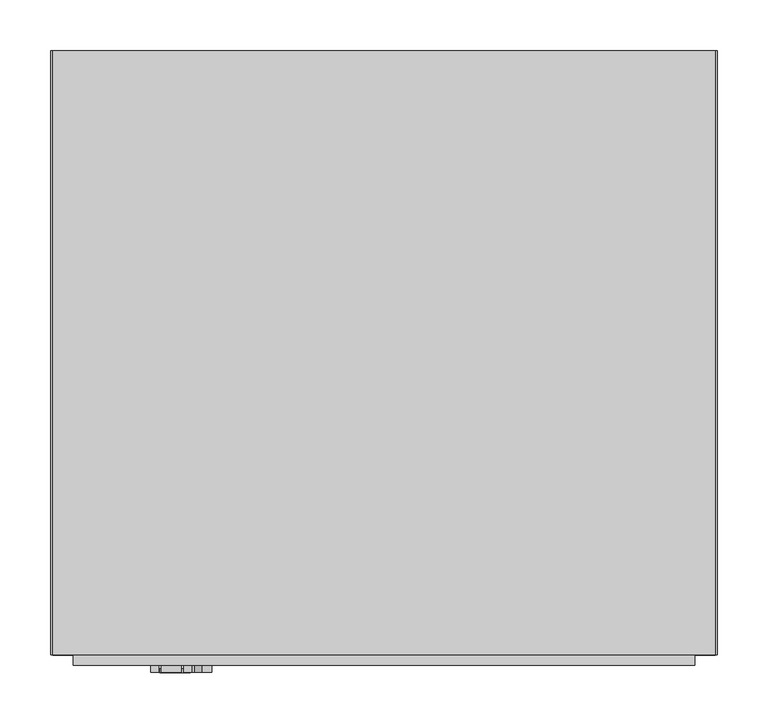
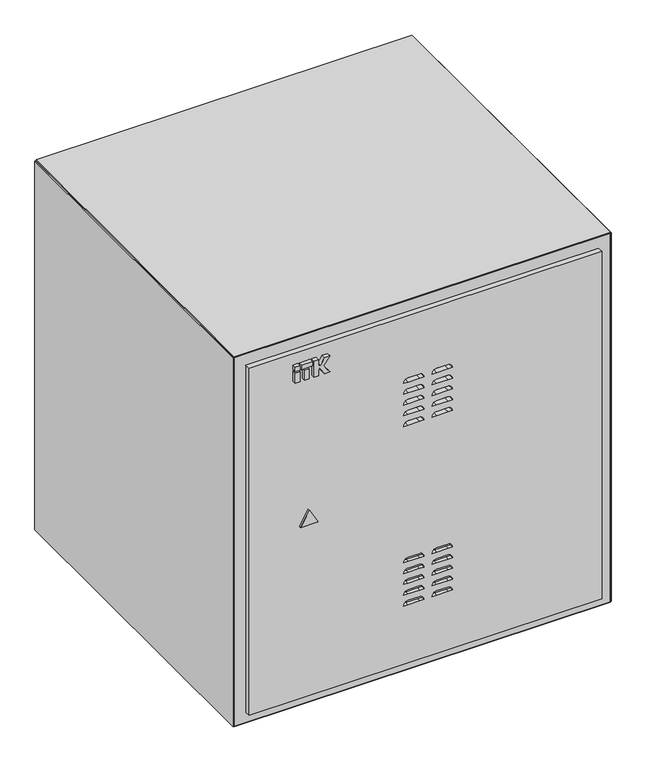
"""IFC4 building model written with IfcOpenShell, lengths in millimetres: proxy geometry, Шкафы ITK серия O_навесной : LO35-09U66-M55."""

from ifc_helpers import new_model, si_unit, frame, origin, origin_with_axes, place, context, project, spatial, polyline, circle_curve, outline, extrude, source, transform, mapped, element, save
from ifc_brep_helpers import plane_surface, revolved_surface, advanced_brep


def electrical_fixtures_a33d25a8(model_context):
    return source(origin(), model_context, "Body", "SolidModel", [
        extrude(outline(polyline([(-220.9746193, -313.5), (-229.197592, -313.5), (-229.197592, -306.5), (-220.9746193, -306.5), (-220.9746193, -313.5)])), frame((0.0, 0.0, 604.0), z_axis=(0.0, 0.0, 1.0), x_axis=(1.0, 0.0, 0.0)), (0.0, 0.0, 1.0), 18.8087618),
        extrude(outline(polyline([(-204.9605777, -313.5), (-212.7053315, -313.5), (-212.7053315, -306.5), (-204.9605777, -306.5), (-204.9605777, -313.5)])), frame((0.0, 0.0, 604.0), z_axis=(0.0, 0.0, 1.0), x_axis=(1.0, 0.0, 0.0)), (0.0, 0.0, 1.0), 18.8087618),
        extrude(outline(polyline([(-220.9746193, -313.5), (-229.197592, -313.5), (-229.197592, -306.5), (-220.9746193, -306.5), (-220.9746193, -313.5)])), frame((0.0, 0.0, 625.4305892), z_axis=(0.0, 0.0, 1.0), x_axis=(1.0, 0.0, 0.0)), (0.0, 0.0, 1.0), 7.9794747),
        extrude(outline(polyline([(604.0, -196.5184175), (604.0, -188.7669278), (615.0271455, -188.7669278), (615.0271455, -185.8031229), (604.0, -178.6420108), (604.0, -169.197592), (618.7278745, -179.8980192), (633.410064, -169.197592), (633.410064, -178.6420108), (622.3829184, -185.8031229), (622.3829184, -188.7669278), (633.410064, -188.7669278), (633.410064, -196.5184175), (604.0, -196.5184175)])), frame((0.0, -313.5, 0.0), z_axis=(0.0, 1.0, 0.0), x_axis=(0.0, 0.0, 1.0)), (0.0, 0.0, 1.0), 7.0),
        extrude(outline(polyline([(-199.0851324, -313.5), (-218.5807768, -313.5), (-218.5807768, -306.5), (-199.0851324, -306.5), (-199.0851324, -313.5)])), frame((0.0, 0.0, 625.4305892), z_axis=(0.0, 0.0, 1.0), x_axis=(1.0, 0.0, 0.0)), (0.0, 0.0, 1.0), 7.9794747),
        extrude(outline(polyline([(338.0, -190.0), (363.9807621, -205.0), (338.0, -220.0), (338.0, -190.0)])), frame((0.0, -313.8761985, 0.0), z_axis=(0.0, 1.0, 0.0), x_axis=(0.0, 0.0, 1.0)), (0.0, 0.0, 1.0), 3.8761985),
        extrude(outline(polyline([(325.0, -294.5), (325.0, -296.5), (-325.0, -296.5), (-325.0, -294.5), (325.0, -294.5)])), frame((0.0, 0.0, 1.0), z_axis=(0.0, 0.0, 1.0), x_axis=(1.0, 0.0, 0.0)), (0.0, 0.0, 1.0), 673.0),
        advanced_brep(
        [(305.0, -306.5, 654.0), (305.0, -296.5, 654.0), (-305.0, -296.5, 654.0), (-305.0, -306.5, 654.0), (305.0, -306.5, 20.0), (-305.0, -306.5, 20.0), (-305.0, -296.5, 20.0), (305.0, -296.5, 20.0), (-10.2651389, -306.5, 454.0), (-29.9451403, -306.5, 454.0), (-37.5671705, -306.5, 454.0), (-29.945139, -306.5, 461.6220297), (-10.2651389, -306.5, 461.6220297), (-2.6431076, -306.5, 454.0), (19.254861, -306.5, 461.6220297), (38.9348608, -306.5, 461.6220297), (46.5568923, -306.5, 454.0), (38.93486, -306.5, 454.0), (19.2548605, -306.5, 454.0), (11.6328295, -306.5, 454.0), (19.2548609, -306.5, 540.3420292), (38.9348609, -306.5, 540.3420292), (46.5568921, -306.5, 532.719998), (38.93486, -306.5, 532.719998), (19.2548605, -306.5, 532.719998), (11.6328297, -306.5, 532.719998), (-29.9451391, -306.5, 540.3420287), (-10.2651391, -306.5, 540.3420287), (-2.6431079, -306.5, 532.7199976), (-10.2651391, -306.5, 532.7199976), (-29.9451403, -306.5, 532.7199976), (-37.5671703, -306.5, 532.7199976), (-2.6431074, -306.5, 513.0400027), (-10.2651389, -306.5, 513.0400027), (-29.9451403, -306.5, 513.0400027), (-37.5671708, -306.5, 513.0400027), (-29.9451389, -306.5, 520.6620307), (-10.2651392, -306.5, 520.6620307), (-10.2651389, -306.5, 493.3599899), (-29.9451403, -306.5, 493.3599899), (-37.5644189, -306.5, 493.3599899), (-29.9414669, -306.5, 500.9820295), (-10.2614689, -306.5, 500.9820295), (-2.6403525, -306.5, 493.3599899), (-10.2651389, -306.5, 473.6798081), (-29.9451403, -306.5, 473.6798081), (-37.5657664, -306.5, 473.6798081), (-29.942705, -306.5, 481.302777), (-10.2675726, -306.5, 481.302777), (-2.644513, -306.5, 473.6798081), (38.93486, -306.5, 473.679901), (19.2548605, -306.5, 473.679901), (11.6343857, -306.5, 473.679901), (19.2572189, -306.5, 481.3024052), (38.9285415, -306.5, 481.3024052), (46.5570341, -306.5, 473.679901), (38.93486, -306.5, 493.3598389), (19.2548605, -306.5, 493.3598389), (11.6353341, -306.5, 493.3598389), (19.2586566, -306.5, 500.9826332), (38.9246889, -306.5, 500.9826332), (46.5571211, -306.5, 493.3598389), (38.93486, -306.5, 513.0400027), (19.2548605, -306.5, 513.0400027), (11.6328292, -306.5, 513.0400027), (19.2548611, -306.5, 520.6620307), (38.9348606, -306.5, 520.6620307), (46.5568926, -306.5, 513.0400027), (-10.2651389, -306.5, 126.2175069), (-29.9451403, -306.5, 126.2175069), (-37.5671705, -306.5, 126.2175069), (-29.945139, -306.5, 133.8395366), (-10.2651389, -306.5, 133.8395366), (-2.6431076, -306.5, 126.2175069), (19.254861, -306.5, 133.8395366), (38.9348608, -306.5, 133.8395366), (46.5568923, -306.5, 126.2175069), (38.93486, -306.5, 126.2175069), (19.2548605, -306.5, 126.2175069), (11.6328295, -306.5, 126.2175069), (19.2548609, -306.5, 212.559536), (38.9348609, -306.5, 212.559536), (46.5568921, -306.5, 204.9375049), (38.93486, -306.5, 204.9375049), (19.2548605, -306.5, 204.9375049), (11.6328297, -306.5, 204.9375049), (-29.9451391, -306.5, 212.5595356), (-10.2651391, -306.5, 212.5595356), (-2.6431079, -306.5, 204.9375046), (-10.2651391, -306.5, 204.9375046), (-29.9451403, -306.5, 204.9375046), (-37.5671703, -306.5, 204.9375046), (-2.6431074, -306.5, 185.2575096), (-10.2651389, -306.5, 185.2575096), (-29.9451403, -306.5, 185.2575096), (-37.5671708, -306.5, 185.2575096), (-29.9451389, -306.5, 192.8795376), (-10.2651392, -306.5, 192.8795376), (-10.2651389, -306.5, 165.5774968), (-29.9451403, -306.5, 165.5774968), (-37.5644189, -306.5, 165.5774968), (-29.9414669, -306.5, 173.1995364), (-10.2614689, -306.5, 173.1995364), (-2.6403525, -306.5, 165.5774968), (-10.2651389, -306.5, 145.897315), (-29.9451403, -306.5, 145.897315), (-37.5657664, -306.5, 145.897315), (-29.942705, -306.5, 153.5202839), (-10.2675726, -306.5, 153.5202839), (-2.644513, -306.5, 145.897315), (38.93486, -306.5, 145.8974079), (19.2548605, -306.5, 145.8974079), (11.6343857, -306.5, 145.8974079), (19.2572189, -306.5, 153.519912), (38.9285415, -306.5, 153.519912), (46.5570341, -306.5, 145.8974079), (38.93486, -306.5, 165.5773458), (19.2548605, -306.5, 165.5773458), (11.6353341, -306.5, 165.5773458), (19.2586566, -306.5, 173.2001401), (38.9246889, -306.5, 173.2001401), (46.5571211, -306.5, 165.5773458), (38.93486, -306.5, 185.2575096), (19.2548605, -306.5, 185.2575096), (11.6328292, -306.5, 185.2575096), (19.2548611, -306.5, 192.8795376), (38.9348606, -306.5, 192.8795376), (46.5568926, -306.5, 185.2575096), (-29.9451403, -296.5, 454.0), (-10.2651389, -296.5, 454.0), (-2.6431076, -296.5, 454.0), (-10.2651389, -296.5, 461.6220297), (-29.945139, -296.5, 461.6220297), (-37.5671705, -296.5, 454.0), (38.9348608, -296.5, 461.6220297), (19.254861, -296.5, 461.6220297), (11.6328295, -296.5, 454.0), (19.2548605, -296.5, 454.0), (38.93486, -296.5, 454.0), (46.5568923, -296.5, 454.0), (38.9348609, -296.5, 540.3420292), (19.2548609, -296.5, 540.3420292), (11.6328297, -296.5, 532.719998), (19.2548605, -296.5, 532.719998), (38.93486, -296.5, 532.719998), (46.5568921, -296.5, 532.719998), (-10.2651391, -296.5, 540.3420287), (-29.9451391, -296.5, 540.3420287), (-37.5671703, -296.5, 532.7199976), (-29.9451403, -296.5, 532.7199976), (-10.2651391, -296.5, 532.7199976), (-2.6431079, -296.5, 532.7199976), (-10.2651389, -296.5, 513.0400027), (-2.6431074, -296.5, 513.0400027), (-10.2651392, -296.5, 520.6620307), (-29.9451389, -296.5, 520.6620307), (-37.5671708, -296.5, 513.0400027), (-29.9451403, -296.5, 513.0400027), (-29.9451403, -296.5, 493.3599899), (-10.2651389, -296.5, 493.3599899), (-2.6403525, -296.5, 493.3599899), (-10.2614689, -296.5, 500.9820295), (-29.9414669, -296.5, 500.9820295), (-37.5644189, -296.5, 493.3599899), (-29.9451403, -296.5, 473.6798081), (-10.2651389, -296.5, 473.6798081), (-2.644513, -296.5, 473.6798081), (-10.2675726, -296.5, 481.302777), (-29.942705, -296.5, 481.302777), (-37.5657664, -296.5, 473.6798081), (19.2548605, -296.5, 473.679901), (38.93486, -296.5, 473.679901), (46.5570341, -296.5, 473.679901), (38.9285415, -296.5, 481.3024052), (19.2572189, -296.5, 481.3024052), (11.6343857, -296.5, 473.679901), (19.2548605, -296.5, 493.3598389), (38.93486, -296.5, 493.3598389), (46.5571211, -296.5, 493.3598389), (38.9246889, -296.5, 500.9826332), (19.2586566, -296.5, 500.9826332), (11.6353341, -296.5, 493.3598389), (19.2548605, -296.5, 513.0400027), (38.93486, -296.5, 513.0400027), (46.5568926, -296.5, 513.0400027), (38.9348606, -296.5, 520.6620307), (19.2548611, -296.5, 520.6620307), (11.6328292, -296.5, 513.0400027), (-29.9451403, -300.0, 126.2175069), (-10.2651389, -300.0, 126.2175069), (-2.6431076, -300.0, 126.2175069), (-10.2651389, -300.0, 133.8395366), (-29.945139, -300.0, 133.8395366), (-37.5671705, -300.0, 126.2175069), (38.9348608, -300.0, 133.8395366), (19.254861, -300.0, 133.8395366), (11.6328295, -300.0, 126.2175069), (19.2548605, -300.0, 126.2175069), (38.93486, -300.0, 126.2175069), (46.5568923, -300.0, 126.2175069), (38.9348609, -300.0, 212.559536), (19.2548609, -300.0, 212.559536), (11.6328297, -300.0, 204.9375049), (19.2548605, -300.0, 204.9375049), (38.93486, -300.0, 204.9375049), (46.5568921, -300.0, 204.9375049), (-10.2651391, -300.0, 212.5595356), (-29.9451391, -300.0, 212.5595356), (-37.5671703, -300.0, 204.9375046), (-29.9451403, -300.0, 204.9375046), (-10.2651391, -300.0, 204.9375046), (-2.6431079, -300.0, 204.9375046), (-10.2651389, -300.0, 185.2575096), (-2.6431074, -300.0, 185.2575096), (-10.2651392, -300.0, 192.8795376), (-29.9451389, -300.0, 192.8795376), (-37.5671708, -300.0, 185.2575096), (-29.9451403, -300.0, 185.2575096), (-29.9451403, -300.0, 165.5774968), (-10.2651389, -300.0, 165.5774968), (-2.6403525, -300.0, 165.5774968), (-10.2614689, -300.0, 173.1995364), (-29.9414669, -300.0, 173.1995364), (-37.5644189, -300.0, 165.5774968), (-29.9451403, -300.0, 145.897315), (-10.2651389, -300.0, 145.897315), (-2.644513, -300.0, 145.897315), (-10.2675726, -300.0, 153.5202839), (-29.942705, -300.0, 153.5202839), (-37.5657664, -300.0, 145.897315), (19.2548605, -300.0, 145.8974079), (38.93486, -300.0, 145.8974079), (46.5570341, -300.0, 145.8974079), (38.9285415, -300.0, 153.519912), (19.2572189, -300.0, 153.519912), (11.6343857, -300.0, 145.8974079), (19.2548605, -300.0, 165.5773458), (38.93486, -300.0, 165.5773458), (46.5571211, -300.0, 165.5773458), (38.9246889, -300.0, 173.2001401), (19.2586566, -300.0, 173.2001401), (11.6353341, -300.0, 165.5773458), (19.2548605, -300.0, 185.2575096), (38.93486, -300.0, 185.2575096), (46.5568926, -300.0, 185.2575096), (38.9348606, -300.0, 192.8795376), (19.2548611, -300.0, 192.8795376), (11.6328292, -300.0, 185.2575096)],
        [
            (0, 1),
            (1, 2),
            (2, 3),
            (3, 0),
            (4, 5),
            (5, 6),
            (6, 7),
            (7, 4),
            (3, 5),
            (4, 0),
            (8, 9),
            (9, 10),
            (10, 11, circle_curve(frame((-29.945139, -306.5, 453.9999983), z_axis=(0.0, 1.0, 0.0), x_axis=(1.0, 0.0, 0.0)), 7.6220315)),
            (11, 12),
            (12, 13, circle_curve(frame((-10.2651389, -306.5, 453.9999985), z_axis=(0.0, 1.0, 0.0), x_axis=(1.0, 0.0, 0.0)), 7.6220312)),
            (13, 8),
            (14, 15),
            (15, 16, circle_curve(frame((38.9348608, -306.5, 453.9999982), z_axis=(0.0, 1.0, 0.0), x_axis=(1.0, 0.0, 0.0)), 7.6220315)),
            (16, 17),
            (17, 18),
            (18, 19),
            (19, 14, circle_curve(frame((19.254861, -306.5, 453.9999982), z_axis=(0.0, 1.0, 0.0), x_axis=(1.0, 0.0, 0.0)), 7.6220315)),
            (20, 21),
            (21, 22, circle_curve(frame((38.9348609, -306.5, 532.719998), z_axis=(0.0, 1.0, 0.0), x_axis=(1.0, 0.0, 0.0)), 7.6220312)),
            (22, 23),
            (23, 24),
            (24, 25),
            (25, 20, circle_curve(frame((19.2548609, -306.5, 532.719998), z_axis=(0.0, 1.0, 0.0), x_axis=(1.0, 0.0, 0.0)), 7.6220312)),
            (26, 27),
            (27, 28, circle_curve(frame((-10.2651391, -306.5, 532.7199976), z_axis=(0.0, 1.0, 0.0), x_axis=(1.0, 0.0, 0.0)), 7.6220312)),
            (28, 29),
            (29, 30),
            (30, 31),
            (31, 26, circle_curve(frame((-29.9451391, -306.5, 532.7199976), z_axis=(0.0, 1.0, 0.0), x_axis=(1.0, 0.0, 0.0)), 7.6220312)),
            (32, 33),
            (33, 34),
            (34, 35),
            (35, 36, circle_curve(frame((-29.9451389, -306.5, 513.0399988), z_axis=(0.0, 1.0, 0.0), x_axis=(1.0, 0.0, 0.0)), 7.6220319)),
            (36, 37),
            (37, 32, circle_curve(frame((-10.2651392, -306.5, 513.0399988), z_axis=(0.0, 1.0, 0.0), x_axis=(1.0, 0.0, 0.0)), 7.6220319)),
            (38, 39),
            (39, 40),
            (40, 41, circle_curve(frame((-29.9414669, -306.5, 493.3590775), z_axis=(0.0, 1.0, 0.0), x_axis=(1.0, 0.0, 0.0)), 7.622952)),
            (41, 42),
            (42, 43, circle_curve(frame((-10.2614689, -306.5, 493.360913), z_axis=(0.0, 1.0, 0.0), x_axis=(1.0, 0.0, 0.0)), 7.6211164)),
            (43, 38),
            (44, 45),
            (45, 46),
            (46, 47, circle_curve(frame((-29.942705, -306.5, 473.6797156), z_axis=(0.0, 1.0, 0.0), x_axis=(1.0, 0.0, 0.0)), 7.6230614)),
            (47, 48),
            (48, 49, circle_curve(frame((-10.2675726, -306.5, 473.6797174), z_axis=(0.0, 1.0, 0.0), x_axis=(1.0, 0.0, 0.0)), 7.6230597)),
            (49, 44),
            (50, 51),
            (51, 52),
            (52, 53, circle_curve(frame((19.2572189, -306.5, 473.6795719), z_axis=(0.0, 1.0, 0.0), x_axis=(1.0, 0.0, 0.0)), 7.6228332)),
            (53, 54),
            (54, 55, circle_curve(frame((38.9347662, -306.5, 473.6801399), z_axis=(0.0, 1.0, 0.0), x_axis=(1.0, 0.0, 0.0)), 7.6222678)),
            (55, 50),
            (56, 57),
            (57, 58),
            (58, 59, circle_curve(frame((19.2586566, -306.5, 493.3593107), z_axis=(0.0, 1.0, 0.0), x_axis=(1.0, 0.0, 0.0)), 7.6233225)),
            (59, 60),
            (60, 61, circle_curve(frame((38.9347082, -306.5, 493.3602269), z_axis=(0.0, 1.0, 0.0), x_axis=(1.0, 0.0, 0.0)), 7.6224129)),
            (61, 56),
            (62, 63),
            (63, 64),
            (64, 65, circle_curve(frame((19.2548611, -306.5, 513.0399987), z_axis=(0.0, 1.0, 0.0), x_axis=(1.0, 0.0, 0.0)), 7.6220319)),
            (65, 66),
            (66, 67, circle_curve(frame((38.9348606, -306.5, 513.0399987), z_axis=(0.0, 1.0, 0.0), x_axis=(1.0, 0.0, 0.0)), 7.6220319)),
            (67, 62),
            (68, 69),
            (69, 70),
            (70, 71, circle_curve(frame((-29.945139, -306.5, 126.2175051), z_axis=(0.0, 1.0, 0.0), x_axis=(1.0, 0.0, 0.0)), 7.6220315)),
            (71, 72),
            (72, 73, circle_curve(frame((-10.2651389, -306.5, 126.2175054), z_axis=(0.0, 1.0, 0.0), x_axis=(1.0, 0.0, 0.0)), 7.6220312)),
            (73, 68),
            (74, 75),
            (75, 76, circle_curve(frame((38.9348608, -306.5, 126.2175051), z_axis=(0.0, 1.0, 0.0), x_axis=(1.0, 0.0, 0.0)), 7.6220315)),
            (76, 77),
            (77, 78),
            (78, 79),
            (79, 74, circle_curve(frame((19.254861, -306.5, 126.2175051), z_axis=(0.0, 1.0, 0.0), x_axis=(1.0, 0.0, 0.0)), 7.6220315)),
            (80, 81),
            (81, 82, circle_curve(frame((38.9348609, -306.5, 204.9375049), z_axis=(0.0, 1.0, 0.0), x_axis=(1.0, 0.0, 0.0)), 7.6220312)),
            (82, 83),
            (83, 84),
            (84, 85),
            (85, 80, circle_curve(frame((19.2548609, -306.5, 204.9375049), z_axis=(0.0, 1.0, 0.0), x_axis=(1.0, 0.0, 0.0)), 7.6220312)),
            (86, 87),
            (87, 88, circle_curve(frame((-10.2651391, -306.5, 204.9375044), z_axis=(0.0, 1.0, 0.0), x_axis=(1.0, 0.0, 0.0)), 7.6220312)),
            (88, 89),
            (89, 90),
            (90, 91),
            (91, 86, circle_curve(frame((-29.9451391, -306.5, 204.9375044), z_axis=(0.0, 1.0, 0.0), x_axis=(1.0, 0.0, 0.0)), 7.6220312)),
            (92, 93),
            (93, 94),
            (94, 95),
            (95, 96, circle_curve(frame((-29.9451389, -306.5, 185.2575057), z_axis=(0.0, 1.0, 0.0), x_axis=(1.0, 0.0, 0.0)), 7.6220319)),
            (96, 97),
            (97, 92, circle_curve(frame((-10.2651392, -306.5, 185.2575057), z_axis=(0.0, 1.0, 0.0), x_axis=(1.0, 0.0, 0.0)), 7.6220319)),
            (98, 99),
            (99, 100),
            (100, 101, circle_curve(frame((-29.9414669, -306.5, 165.5765843), z_axis=(0.0, 1.0, 0.0), x_axis=(1.0, 0.0, 0.0)), 7.622952)),
            (101, 102),
            (102, 103, circle_curve(frame((-10.2614689, -306.5, 165.5784199), z_axis=(0.0, 1.0, 0.0), x_axis=(1.0, 0.0, 0.0)), 7.6211164)),
            (103, 98),
            (104, 105),
            (105, 106),
            (106, 107, circle_curve(frame((-29.942705, -306.5, 145.8972225), z_axis=(0.0, 1.0, 0.0), x_axis=(1.0, 0.0, 0.0)), 7.6230614)),
            (107, 108),
            (108, 109, circle_curve(frame((-10.2675726, -306.5, 145.8972242), z_axis=(0.0, 1.0, 0.0), x_axis=(1.0, 0.0, 0.0)), 7.6230597)),
            (109, 104),
            (110, 111),
            (111, 112),
            (112, 113, circle_curve(frame((19.2572189, -306.5, 145.8970788), z_axis=(0.0, 1.0, 0.0), x_axis=(1.0, 0.0, 0.0)), 7.6228332)),
            (113, 114),
            (114, 115, circle_curve(frame((38.9347662, -306.5, 145.8976467), z_axis=(0.0, 1.0, 0.0), x_axis=(1.0, 0.0, 0.0)), 7.6222678)),
            (115, 110),
            (116, 117),
            (117, 118),
            (118, 119, circle_curve(frame((19.2586566, -306.5, 165.5768176), z_axis=(0.0, 1.0, 0.0), x_axis=(1.0, 0.0, 0.0)), 7.6233225)),
            (119, 120),
            (120, 121, circle_curve(frame((38.9347082, -306.5, 165.5777338), z_axis=(0.0, 1.0, 0.0), x_axis=(1.0, 0.0, 0.0)), 7.6224129)),
            (121, 116),
            (122, 123),
            (123, 124),
            (124, 125, circle_curve(frame((19.2548611, -306.5, 185.2575056), z_axis=(0.0, 1.0, 0.0), x_axis=(1.0, 0.0, 0.0)), 7.6220319)),
            (125, 126),
            (126, 127, circle_curve(frame((38.9348606, -306.5, 185.2575056), z_axis=(0.0, 1.0, 0.0), x_axis=(1.0, 0.0, 0.0)), 7.6220319)),
            (127, 122),
            (2, 6),
            (7, 1),
            (128, 129),
            (129, 130),
            (130, 131, circle_curve(frame((-10.2651389, -296.5, 453.9999985), z_axis=(0.0, -1.0, 0.0), x_axis=(1.0, 0.0, 0.0)), 7.6220312)),
            (131, 132),
            (132, 133, circle_curve(frame((-29.945139, -296.5, 453.9999983), z_axis=(0.0, -1.0, 0.0), x_axis=(1.0, 0.0, 0.0)), 7.6220315)),
            (133, 128),
            (134, 135),
            (135, 136, circle_curve(frame((19.254861, -296.5, 453.9999982), z_axis=(0.0, -1.0, 0.0), x_axis=(1.0, 0.0, 0.0)), 7.6220315)),
            (136, 137),
            (137, 138),
            (138, 139),
            (139, 134, circle_curve(frame((38.9348608, -296.5, 453.9999982), z_axis=(0.0, -1.0, 0.0), x_axis=(1.0, 0.0, 0.0)), 7.6220315)),
            (140, 141),
            (141, 142, circle_curve(frame((19.2548609, -296.5, 532.719998), z_axis=(0.0, -1.0, 0.0), x_axis=(1.0, 0.0, 0.0)), 7.6220312)),
            (142, 143),
            (143, 144),
            (144, 145),
            (145, 140, circle_curve(frame((38.9348609, -296.5, 532.719998), z_axis=(0.0, -1.0, 0.0), x_axis=(1.0, 0.0, 0.0)), 7.6220312)),
            (146, 147),
            (147, 148, circle_curve(frame((-29.9451391, -296.5, 532.7199976), z_axis=(0.0, -1.0, 0.0), x_axis=(1.0, 0.0, 0.0)), 7.6220312)),
            (148, 149),
            (149, 150),
            (150, 151),
            (151, 146, circle_curve(frame((-10.2651391, -296.5, 532.7199976), z_axis=(0.0, -1.0, 0.0), x_axis=(1.0, 0.0, 0.0)), 7.6220312)),
            (152, 153),
            (153, 154, circle_curve(frame((-10.2651392, -296.5, 513.0399988), z_axis=(0.0, -1.0, 0.0), x_axis=(1.0, 0.0, 0.0)), 7.6220319)),
            (154, 155),
            (155, 156, circle_curve(frame((-29.9451389, -296.5, 513.0399988), z_axis=(0.0, -1.0, 0.0), x_axis=(1.0, 0.0, 0.0)), 7.6220319)),
            (156, 157),
            (157, 152),
            (158, 159),
            (159, 160),
            (160, 161, circle_curve(frame((-10.2614689, -296.5, 493.360913), z_axis=(0.0, -1.0, 0.0), x_axis=(1.0, 0.0, 0.0)), 7.6211164)),
            (161, 162),
            (162, 163, circle_curve(frame((-29.9414669, -296.5, 493.3590775), z_axis=(0.0, -1.0, 0.0), x_axis=(1.0, 0.0, 0.0)), 7.622952)),
            (163, 158),
            (164, 165),
            (165, 166),
            (166, 167, circle_curve(frame((-10.2675726, -296.5, 473.6797174), z_axis=(0.0, -1.0, 0.0), x_axis=(1.0, 0.0, 0.0)), 7.6230597)),
            (167, 168),
            (168, 169, circle_curve(frame((-29.942705, -296.5, 473.6797156), z_axis=(0.0, -1.0, 0.0), x_axis=(1.0, 0.0, 0.0)), 7.6230614)),
            (169, 164),
            (170, 171),
            (171, 172),
            (172, 173, circle_curve(frame((38.9347662, -296.5, 473.6801399), z_axis=(0.0, -1.0, 0.0), x_axis=(1.0, 0.0, 0.0)), 7.6222678)),
            (173, 174),
            (174, 175, circle_curve(frame((19.2572189, -296.5, 473.6795719), z_axis=(0.0, -1.0, 0.0), x_axis=(1.0, 0.0, 0.0)), 7.6228332)),
            (175, 170),
            (176, 177),
            (177, 178),
            (178, 179, circle_curve(frame((38.9347082, -296.5, 493.3602269), z_axis=(0.0, -1.0, 0.0), x_axis=(1.0, 0.0, 0.0)), 7.6224129)),
            (179, 180),
            (180, 181, circle_curve(frame((19.2586566, -296.5, 493.3593107), z_axis=(0.0, -1.0, 0.0), x_axis=(1.0, 0.0, 0.0)), 7.6233225)),
            (181, 176),
            (182, 183),
            (183, 184),
            (184, 185, circle_curve(frame((38.9348606, -296.5, 513.0399987), z_axis=(0.0, -1.0, 0.0), x_axis=(1.0, 0.0, 0.0)), 7.6220319)),
            (185, 186),
            (186, 187, circle_curve(frame((19.2548611, -296.5, 513.0399987), z_axis=(0.0, -1.0, 0.0), x_axis=(1.0, 0.0, 0.0)), 7.6220319)),
            (187, 182),
            (8, 129),
            (128, 9),
            (13, 130),
            (12, 131),
            (11, 132),
            (10, 133),
            (14, 135),
            (134, 15),
            (19, 136),
            (18, 137),
            (17, 138),
            (16, 139),
            (20, 141),
            (140, 21),
            (25, 142),
            (24, 143),
            (23, 144),
            (22, 145),
            (26, 147),
            (146, 27),
            (31, 148),
            (30, 149),
            (29, 150),
            (28, 151),
            (32, 153),
            (152, 33),
            (37, 154),
            (36, 155),
            (35, 156),
            (34, 157),
            (38, 159),
            (158, 39),
            (43, 160),
            (42, 161),
            (41, 162),
            (40, 163),
            (44, 165),
            (164, 45),
            (49, 166),
            (48, 167),
            (47, 168),
            (46, 169),
            (50, 171),
            (170, 51),
            (55, 172),
            (54, 173),
            (53, 174),
            (52, 175),
            (56, 177),
            (176, 57),
            (61, 178),
            (60, 179),
            (59, 180),
            (58, 181),
            (62, 183),
            (182, 63),
            (67, 184),
            (66, 185),
            (65, 186),
            (64, 187),
            (188, 189),
            (189, 190),
            (190, 191, circle_curve(frame((-10.2651389, -300.0, 126.2175054), z_axis=(0.0, -1.0, 0.0), x_axis=(1.0, 0.0, 0.0)), 7.6220312)),
            (191, 192),
            (192, 193, circle_curve(frame((-29.945139, -300.0, 126.2175051), z_axis=(0.0, -1.0, 0.0), x_axis=(1.0, 0.0, 0.0)), 7.6220315)),
            (193, 188),
            (194, 195),
            (195, 196, circle_curve(frame((19.254861, -300.0, 126.2175051), z_axis=(0.0, -1.0, 0.0), x_axis=(1.0, 0.0, 0.0)), 7.6220315)),
            (196, 197),
            (197, 198),
            (198, 199),
            (199, 194, circle_curve(frame((38.9348608, -300.0, 126.2175051), z_axis=(0.0, -1.0, 0.0), x_axis=(1.0, 0.0, 0.0)), 7.6220315)),
            (200, 201),
            (201, 202, circle_curve(frame((19.2548609, -300.0, 204.9375049), z_axis=(0.0, -1.0, 0.0), x_axis=(1.0, 0.0, 0.0)), 7.6220312)),
            (202, 203),
            (203, 204),
            (204, 205),
            (205, 200, circle_curve(frame((38.9348609, -300.0, 204.9375049), z_axis=(0.0, -1.0, 0.0), x_axis=(1.0, 0.0, 0.0)), 7.6220312)),
            (206, 207),
            (207, 208, circle_curve(frame((-29.9451391, -300.0, 204.9375044), z_axis=(0.0, -1.0, 0.0), x_axis=(1.0, 0.0, 0.0)), 7.6220312)),
            (208, 209),
            (209, 210),
            (210, 211),
            (211, 206, circle_curve(frame((-10.2651391, -300.0, 204.9375044), z_axis=(0.0, -1.0, 0.0), x_axis=(1.0, 0.0, 0.0)), 7.6220312)),
            (212, 213),
            (213, 214, circle_curve(frame((-10.2651392, -300.0, 185.2575057), z_axis=(0.0, -1.0, 0.0), x_axis=(1.0, 0.0, 0.0)), 7.6220319)),
            (214, 215),
            (215, 216, circle_curve(frame((-29.9451389, -300.0, 185.2575057), z_axis=(0.0, -1.0, 0.0), x_axis=(1.0, 0.0, 0.0)), 7.6220319)),
            (216, 217),
            (217, 212),
            (218, 219),
            (219, 220),
            (220, 221, circle_curve(frame((-10.2614689, -300.0, 165.5784199), z_axis=(0.0, -1.0, 0.0), x_axis=(1.0, 0.0, 0.0)), 7.6211164)),
            (221, 222),
            (222, 223, circle_curve(frame((-29.9414669, -300.0, 165.5765843), z_axis=(0.0, -1.0, 0.0), x_axis=(1.0, 0.0, 0.0)), 7.622952)),
            (223, 218),
            (224, 225),
            (225, 226),
            (226, 227, circle_curve(frame((-10.2675726, -300.0, 145.8972242), z_axis=(0.0, -1.0, 0.0), x_axis=(1.0, 0.0, 0.0)), 7.6230597)),
            (227, 228),
            (228, 229, circle_curve(frame((-29.942705, -300.0, 145.8972225), z_axis=(0.0, -1.0, 0.0), x_axis=(1.0, 0.0, 0.0)), 7.6230614)),
            (229, 224),
            (230, 231),
            (231, 232),
            (232, 233, circle_curve(frame((38.9347662, -300.0, 145.8976467), z_axis=(0.0, -1.0, 0.0), x_axis=(1.0, 0.0, 0.0)), 7.6222678)),
            (233, 234),
            (234, 235, circle_curve(frame((19.2572189, -300.0, 145.8970788), z_axis=(0.0, -1.0, 0.0), x_axis=(1.0, 0.0, 0.0)), 7.6228332)),
            (235, 230),
            (236, 237),
            (237, 238),
            (238, 239, circle_curve(frame((38.9347082, -300.0, 165.5777338), z_axis=(0.0, -1.0, 0.0), x_axis=(1.0, 0.0, 0.0)), 7.6224129)),
            (239, 240),
            (240, 241, circle_curve(frame((19.2586566, -300.0, 165.5768176), z_axis=(0.0, -1.0, 0.0), x_axis=(1.0, 0.0, 0.0)), 7.6233225)),
            (241, 236),
            (242, 243),
            (243, 244),
            (244, 245, circle_curve(frame((38.9348606, -300.0, 185.2575056), z_axis=(0.0, -1.0, 0.0), x_axis=(1.0, 0.0, 0.0)), 7.6220319)),
            (245, 246),
            (246, 247, circle_curve(frame((19.2548611, -300.0, 185.2575056), z_axis=(0.0, -1.0, 0.0), x_axis=(1.0, 0.0, 0.0)), 7.6220319)),
            (247, 242),
            (188, 69),
            (68, 189),
            (73, 190),
            (72, 191),
            (71, 192),
            (70, 193),
            (194, 75),
            (74, 195),
            (79, 196),
            (78, 197),
            (77, 198),
            (76, 199),
            (200, 81),
            (80, 201),
            (85, 202),
            (84, 203),
            (83, 204),
            (82, 205),
            (206, 87),
            (86, 207),
            (91, 208),
            (90, 209),
            (89, 210),
            (88, 211),
            (212, 93),
            (92, 213),
            (97, 214),
            (96, 215),
            (95, 216),
            (94, 217),
            (218, 99),
            (98, 219),
            (103, 220),
            (102, 221),
            (101, 222),
            (100, 223),
            (224, 105),
            (104, 225),
            (109, 226),
            (108, 227),
            (107, 228),
            (106, 229),
            (230, 111),
            (110, 231),
            (115, 232),
            (114, 233),
            (113, 234),
            (112, 235),
            (236, 117),
            (116, 237),
            (121, 238),
            (120, 239),
            (119, 240),
            (118, 241),
            (242, 123),
            (122, 243),
            (127, 244),
            (126, 245),
            (125, 246),
            (124, 247),
        ],
        [
            plane_surface(frame((305.0, -306.5, 654.0), z_axis=(0.0, 0.0, 1.0), x_axis=(0.0, 1.0, 0.0))),
            plane_surface(frame((305.0, -306.5, 20.0), z_axis=(0.0, 0.0, -1.0), x_axis=(0.0, -1.0, 0.0))),
            plane_surface(frame((-305.0, -306.5, 654.0), z_axis=(0.0, -1.0, 0.0), x_axis=(0.0, 0.0, -1.0))),
            plane_surface(frame((-305.0, -296.5, 654.0), z_axis=(-1.0, 0.0, 0.0), x_axis=(0.0, 0.0, -1.0))),
            plane_surface(frame((305.0, -306.5, 654.0), z_axis=(1.0, 0.0, 0.0), x_axis=(0.0, 0.0, -1.0))),
            plane_surface(frame((305.0, -296.5, 654.0), z_axis=(0.0, 1.0, 0.0), x_axis=(0.0, 0.0, -1.0))),
            plane_surface(frame((-29.9451403, -306.5, 454.0), z_axis=(0.0, 0.0, 1.0), x_axis=(0.0, 1.0, 0.0))),
            plane_surface(frame((-10.2651389, -306.5, 454.0), z_axis=(0.0, 0.0, 1.0), x_axis=(0.0, 1.0, 0.0))),
            revolved_surface(polyline([(-2.6431077, -306.5, 453.9999985), (-2.6431077, -296.5, 453.9999985)]), (-10.2651389, -296.5, 453.9999985), (0.0, -1.0, 0.0)),
            plane_surface(frame((-10.2651389, -306.5, 461.6220297), z_axis=(0.0, 0.0, -1.0), x_axis=(0.0, 1.0, 0.0))),
            revolved_surface(polyline([(-22.3231075, -306.5, 453.9999983), (-22.3231075, -296.5, 453.9999983)]), (-29.945139, -296.5, 453.9999983), (0.0, -1.0, 0.0)),
            plane_surface(frame((-37.5671705, -306.5, 454.0), z_axis=(0.0, 0.0, 1.0), x_axis=(0.0, 1.0, 0.0))),
            plane_surface(frame((38.9348608, -306.5, 461.6220297), z_axis=(0.0, 0.0, -1.0), x_axis=(0.0, 1.0, 0.0))),
            revolved_surface(polyline([(26.876892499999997, -306.5, 453.9999982), (26.876892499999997, -296.5, 453.9999982)]), (19.254861, 0.0, 453.9999982), (0.0, -1.0, 0.0)),
            plane_surface(frame((11.6328295, -306.5, 454.0), z_axis=(0.0, 0.0, 1.0), x_axis=(0.0, 1.0, 0.0))),
            plane_surface(frame((19.2548605, -306.5, 454.0), z_axis=(0.0, 0.0, 1.0), x_axis=(0.0, 1.0, 0.0))),
            plane_surface(frame((38.93486, -306.5, 454.0), z_axis=(0.0, 0.0, 1.0), x_axis=(0.0, 1.0, 0.0))),
            revolved_surface(polyline([(46.5568923, -306.5, 453.9999982), (46.5568923, -296.5, 453.9999982)]), (38.9348608, 0.0, 453.9999982), (0.0, -1.0, 0.0)),
            plane_surface(frame((38.9348609, -306.5, 540.3420292), z_axis=(0.0, 0.0, -1.0), x_axis=(0.0, 1.0, 0.0))),
            revolved_surface(polyline([(26.8768921, -306.5, 532.719998), (26.8768921, -296.5, 532.719998)]), (19.2548609, 0.0, 532.719998), (0.0, -1.0, 0.0)),
            plane_surface(frame((11.6328297, -306.5, 532.719998), z_axis=(0.0, 0.0, 1.0), x_axis=(0.0, 1.0, 0.0))),
            plane_surface(frame((19.2548605, -306.5, 532.719998), z_axis=(0.0, 0.0, 1.0), x_axis=(0.0, 1.0, 0.0))),
            plane_surface(frame((38.93486, -306.5, 532.719998), z_axis=(0.0, 0.0, 1.0), x_axis=(0.0, 1.0, 0.0))),
            revolved_surface(polyline([(46.5568921, -306.5, 532.719998), (46.5568921, -296.5, 532.719998)]), (38.9348609, 0.0, 532.719998), (0.0, -1.0, 0.0)),
            plane_surface(frame((-10.2651391, -306.5, 540.3420287), z_axis=(0.0, 0.0, -1.0), x_axis=(0.0, 1.0, 0.0))),
            revolved_surface(polyline([(-22.323107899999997, -306.5, 532.7199976), (-22.323107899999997, -296.5, 532.7199976)]), (-29.9451391, 0.0, 532.7199976), (0.0, -1.0, 0.0)),
            plane_surface(frame((-37.5671703, -306.5, 532.7199976), z_axis=(0.0, 0.0, 1.0), x_axis=(0.0, 1.0, 0.0))),
            plane_surface(frame((-29.9451403, -306.5, 532.7199976), z_axis=(0.0, 0.0, 1.0), x_axis=(0.0, 1.0, 0.0))),
            plane_surface(frame((-10.2651391, -306.5, 532.7199976), z_axis=(0.0, 0.0, 1.0), x_axis=(0.0, 1.0, 0.0))),
            revolved_surface(polyline([(-2.6431079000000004, -306.5, 532.7199976), (-2.6431079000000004, -296.5, 532.7199976)]), (-10.2651391, 0.0, 532.7199976), (0.0, -1.0, 0.0)),
            plane_surface(frame((-10.2651389, -306.5, 513.0400027), z_axis=(0.0, 0.0, 1.0), x_axis=(0.0, 1.0, 0.0))),
            revolved_surface(polyline([(-2.6431073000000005, -306.5, 513.0399988), (-2.6431073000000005, -296.5, 513.0399988)]), (-10.2651392, 0.0, 513.0399988), (0.0, -1.0, 0.0)),
            plane_surface(frame((-10.2651392, -306.5, 520.6620307), z_axis=(0.0, 0.0, -1.0), x_axis=(0.0, 1.0, 0.0))),
            revolved_surface(polyline([(-22.323107, -306.5, 513.0399988), (-22.323107, -296.5, 513.0399988)]), (-29.9451389, 0.0, 513.0399988), (0.0, -1.0, 0.0)),
            plane_surface(frame((-37.5671708, -306.5, 513.0400027), z_axis=(0.0, 0.0, 1.0), x_axis=(0.0, 1.0, 0.0))),
            plane_surface(frame((-29.9451403, -306.5, 513.0400027), z_axis=(0.0, 0.0, 1.0), x_axis=(0.0, 1.0, 0.0))),
            plane_surface(frame((-29.9451403, -306.5, 493.3599899), z_axis=(0.0, 0.0, 1.0), x_axis=(0.0, 1.0, 0.0))),
            plane_surface(frame((-10.2651389, -306.5, 493.3599899), z_axis=(0.0, 0.0, 1.0), x_axis=(0.0, 1.0, 0.0))),
            revolved_surface(polyline([(-2.6403525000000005, -306.5, 493.360913), (-2.6403525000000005, -296.5, 493.360913)]), (-10.2614689, 0.0, 493.360913), (0.0, -1.0, 0.0)),
            plane_surface(frame((-10.2614689, -306.5, 500.9820295), z_axis=(0.0, 0.0, -1.0), x_axis=(0.0, 1.0, 0.0))),
            revolved_surface(polyline([(-22.318514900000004, -306.5, 493.3590775), (-22.318514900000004, -296.5, 493.3590775)]), (-29.9414669, 0.0, 493.3590775), (0.0, -1.0, 0.0)),
            plane_surface(frame((-37.5644189, -306.5, 493.3599899), z_axis=(0.0, 0.0, 1.0), x_axis=(0.0, 1.0, 0.0))),
            plane_surface(frame((-29.9451403, -306.5, 473.6798081), z_axis=(0.0, 0.0, 1.0), x_axis=(0.0, 1.0, 0.0))),
            plane_surface(frame((-10.2651389, -306.5, 473.6798081), z_axis=(0.0, 0.0, 1.0), x_axis=(0.0, 1.0, 0.0))),
            revolved_surface(polyline([(-2.6445128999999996, -306.5, 473.6797174), (-2.6445128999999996, -296.5, 473.6797174)]), (-10.2675726, 0.0, 473.6797174), (0.0, -1.0, 0.0)),
            plane_surface(frame((-10.2675726, -306.5, 481.302777), z_axis=(0.0, 0.0, -1.0), x_axis=(0.0, 1.0, 0.0))),
            revolved_surface(polyline([(-22.3196436, -306.5, 473.6797156), (-22.3196436, -296.5, 473.6797156)]), (-29.942705, 0.0, 473.6797156), (0.0, -1.0, 0.0)),
            plane_surface(frame((-37.5657664, -306.5, 473.6798081), z_axis=(0.0, 0.0, 1.0), x_axis=(0.0, 1.0, 0.0))),
            plane_surface(frame((19.2548605, -306.5, 473.679901), z_axis=(0.0, 0.0, 1.0), x_axis=(0.0, 1.0, 0.0))),
            plane_surface(frame((38.93486, -306.5, 473.679901), z_axis=(0.0, 0.0, 1.0), x_axis=(0.0, 1.0, 0.0))),
            revolved_surface(polyline([(46.557034, -306.5, 473.6801399), (46.557034, -296.5, 473.6801399)]), (38.9347662, 0.0, 473.6801399), (0.0, -1.0, 0.0)),
            plane_surface(frame((38.9285415, -306.5, 481.3024052), z_axis=(0.0, 0.0, -1.0), x_axis=(0.0, 1.0, 0.0))),
            revolved_surface(polyline([(26.8800521, -306.5, 473.6795719), (26.8800521, -296.5, 473.6795719)]), (19.2572189, 0.0, 473.6795719), (0.0, -1.0, 0.0)),
            plane_surface(frame((11.6343857, -306.5, 473.679901), z_axis=(0.0, 0.0, 1.0), x_axis=(0.0, 1.0, 0.0))),
            plane_surface(frame((19.2548605, -306.5, 493.3598389), z_axis=(0.0, 0.0, 1.0), x_axis=(0.0, 1.0, 0.0))),
            plane_surface(frame((38.93486, -306.5, 493.3598389), z_axis=(0.0, 0.0, 1.0), x_axis=(0.0, 1.0, 0.0))),
            revolved_surface(polyline([(46.5571211, -306.5, 493.3602269), (46.5571211, -296.5, 493.3602269)]), (38.9347082, 0.0, 493.3602269), (0.0, -1.0, 0.0)),
            plane_surface(frame((38.9246889, -306.5, 500.9826332), z_axis=(0.0, 0.0, -1.0), x_axis=(0.0, 1.0, 0.0))),
            revolved_surface(polyline([(26.8819791, -306.5, 493.3593107), (26.8819791, -296.5, 493.3593107)]), (19.2586566, 0.0, 493.3593107), (0.0, -1.0, 0.0)),
            plane_surface(frame((11.6353341, -306.5, 493.3598389), z_axis=(0.0, 0.0, 1.0), x_axis=(0.0, 1.0, 0.0))),
            plane_surface(frame((19.2548605, -306.5, 513.0400027), z_axis=(0.0, 0.0, 1.0), x_axis=(0.0, 1.0, 0.0))),
            plane_surface(frame((38.93486, -306.5, 513.0400027), z_axis=(0.0, 0.0, 1.0), x_axis=(0.0, 1.0, 0.0))),
            revolved_surface(polyline([(46.556892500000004, -306.5, 513.0399987), (46.556892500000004, -296.5, 513.0399987)]), (38.9348606, 0.0, 513.0399987), (0.0, -1.0, 0.0)),
            plane_surface(frame((38.9348606, -306.5, 520.6620307), z_axis=(0.0, 0.0, -1.0), x_axis=(0.0, 1.0, 0.0))),
            revolved_surface(polyline([(26.876893, -306.5, 513.0399987), (26.876893, -296.5, 513.0399987)]), (19.2548611, 0.0, 513.0399987), (0.0, -1.0, 0.0)),
            plane_surface(frame((11.6328292, -306.5, 513.0400027), z_axis=(0.0, 0.0, 1.0), x_axis=(0.0, 1.0, 0.0))),
            plane_surface(frame((-10.2651389, -300.0, 126.2175069), z_axis=(0.0, -1.0, 0.0), x_axis=(-1.0, 0.0, 0.0))),
            plane_surface(frame((-29.9451403, -310.0, 126.2175069), z_axis=(0.0, 0.0, 1.0), x_axis=(0.0, 1.0, 0.0))),
            plane_surface(frame((-10.2651389, -310.0, 126.2175069), z_axis=(0.0, 0.0, 1.0), x_axis=(0.0, 1.0, 0.0))),
            revolved_surface(polyline([(-2.6431077, -306.5, 126.2175054), (-2.6431077, -300.0, 126.2175054)]), (-10.2651389, -300.0, 126.2175054), (0.0, -1.0, 0.0)),
            plane_surface(frame((-10.2651389, -310.0, 133.8395366), z_axis=(0.0, 0.0, -1.0), x_axis=(0.0, 1.0, 0.0))),
            revolved_surface(polyline([(-22.3231075, -306.5, 126.2175051), (-22.3231075, -300.0, 126.2175051)]), (-29.945139, -300.0, 126.2175051), (0.0, -1.0, 0.0)),
            plane_surface(frame((-37.5671705, -310.0, 126.2175069), z_axis=(0.0, 0.0, 1.0), x_axis=(0.0, 1.0, 0.0))),
            plane_surface(frame((38.9348608, -310.0, 133.8395366), z_axis=(0.0, 0.0, -1.0), x_axis=(0.0, 1.0, 0.0))),
            revolved_surface(polyline([(26.876892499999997, -306.5, 126.2175051), (26.876892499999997, -300.0, 126.2175051)]), (19.254861, 0.0, 126.2175051), (0.0, -1.0, 0.0)),
            plane_surface(frame((11.6328295, -310.0, 126.2175069), z_axis=(0.0, 0.0, 1.0), x_axis=(0.0, 1.0, 0.0))),
            plane_surface(frame((19.2548605, -310.0, 126.2175069), z_axis=(0.0, 0.0, 1.0), x_axis=(0.0, 1.0, 0.0))),
            plane_surface(frame((38.93486, -310.0, 126.2175069), z_axis=(0.0, 0.0, 1.0), x_axis=(0.0, 1.0, 0.0))),
            revolved_surface(polyline([(46.5568923, -306.5, 126.2175051), (46.5568923, -300.0, 126.2175051)]), (38.9348608, 0.0, 126.2175051), (0.0, -1.0, 0.0)),
            plane_surface(frame((38.9348609, -310.0, 212.559536), z_axis=(0.0, 0.0, -1.0), x_axis=(0.0, 1.0, 0.0))),
            revolved_surface(polyline([(26.8768921, -306.5, 204.9375049), (26.8768921, -300.0, 204.9375049)]), (19.2548609, 0.0, 204.9375049), (0.0, -1.0, 0.0)),
            plane_surface(frame((11.6328297, -310.0, 204.9375049), z_axis=(0.0, 0.0, 1.0), x_axis=(0.0, 1.0, 0.0))),
            plane_surface(frame((19.2548605, -310.0, 204.9375049), z_axis=(0.0, 0.0, 1.0), x_axis=(0.0, 1.0, 0.0))),
            plane_surface(frame((38.93486, -310.0, 204.9375049), z_axis=(0.0, 0.0, 1.0), x_axis=(0.0, 1.0, 0.0))),
            revolved_surface(polyline([(46.5568921, -306.5, 204.9375049), (46.5568921, -300.0, 204.9375049)]), (38.9348609, 0.0, 204.9375049), (0.0, -1.0, 0.0)),
            plane_surface(frame((-10.2651391, -310.0, 212.5595356), z_axis=(0.0, 0.0, -1.0), x_axis=(0.0, 1.0, 0.0))),
            revolved_surface(polyline([(-22.323107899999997, -306.5, 204.9375044), (-22.323107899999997, -300.0, 204.9375044)]), (-29.9451391, 0.0, 204.9375044), (0.0, -1.0, 0.0)),
            plane_surface(frame((-37.5671703, -310.0, 204.9375046), z_axis=(0.0, 0.0, 1.0), x_axis=(0.0, 1.0, 0.0))),
            plane_surface(frame((-29.9451403, -310.0, 204.9375046), z_axis=(0.0, 0.0, 1.0), x_axis=(0.0, 1.0, 0.0))),
            plane_surface(frame((-10.2651391, -310.0, 204.9375046), z_axis=(0.0, 0.0, 1.0), x_axis=(0.0, 1.0, 0.0))),
            revolved_surface(polyline([(-2.6431079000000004, -306.5, 204.9375044), (-2.6431079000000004, -300.0, 204.9375044)]), (-10.2651391, 0.0, 204.9375044), (0.0, -1.0, 0.0)),
            plane_surface(frame((-10.2651389, -310.0, 185.2575096), z_axis=(0.0, 0.0, 1.0), x_axis=(0.0, 1.0, 0.0))),
            revolved_surface(polyline([(-2.6431073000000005, -306.5, 185.2575057), (-2.6431073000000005, -300.0, 185.2575057)]), (-10.2651392, 0.0, 185.2575057), (0.0, -1.0, 0.0)),
            plane_surface(frame((-10.2651392, -310.0, 192.8795376), z_axis=(0.0, 0.0, -1.0), x_axis=(0.0, 1.0, 0.0))),
            revolved_surface(polyline([(-22.323107, -306.5, 185.2575057), (-22.323107, -300.0, 185.2575057)]), (-29.9451389, 0.0, 185.2575057), (0.0, -1.0, 0.0)),
            plane_surface(frame((-37.5671708, -310.0, 185.2575096), z_axis=(0.0, 0.0, 1.0), x_axis=(0.0, 1.0, 0.0))),
            plane_surface(frame((-29.9451403, -310.0, 185.2575096), z_axis=(0.0, 0.0, 1.0), x_axis=(0.0, 1.0, 0.0))),
            plane_surface(frame((-29.9451403, -310.0, 165.5774968), z_axis=(0.0, 0.0, 1.0), x_axis=(0.0, 1.0, 0.0))),
            plane_surface(frame((-10.2651389, -310.0, 165.5774968), z_axis=(0.0, 0.0, 1.0), x_axis=(0.0, 1.0, 0.0))),
            revolved_surface(polyline([(-2.6403525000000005, -306.5, 165.5784199), (-2.6403525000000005, -300.0, 165.5784199)]), (-10.2614689, 0.0, 165.5784199), (0.0, -1.0, 0.0)),
            plane_surface(frame((-10.2614689, -310.0, 173.1995364), z_axis=(0.0, 0.0, -1.0), x_axis=(0.0, 1.0, 0.0))),
            revolved_surface(polyline([(-22.318514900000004, -306.5, 165.5765843), (-22.318514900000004, -300.0, 165.5765843)]), (-29.9414669, 0.0, 165.5765843), (0.0, -1.0, 0.0)),
            plane_surface(frame((-37.5644189, -310.0, 165.5774968), z_axis=(0.0, 0.0, 1.0), x_axis=(0.0, 1.0, 0.0))),
            plane_surface(frame((-29.9451403, -310.0, 145.897315), z_axis=(0.0, 0.0, 1.0), x_axis=(0.0, 1.0, 0.0))),
            plane_surface(frame((-10.2651389, -310.0, 145.897315), z_axis=(0.0, 0.0, 1.0), x_axis=(0.0, 1.0, 0.0))),
            revolved_surface(polyline([(-2.6445128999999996, -306.5, 145.8972242), (-2.6445128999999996, -300.0, 145.8972242)]), (-10.2675726, 0.0, 145.8972242), (0.0, -1.0, 0.0)),
            plane_surface(frame((-10.2675726, -310.0, 153.5202839), z_axis=(0.0, 0.0, -1.0), x_axis=(0.0, 1.0, 0.0))),
            revolved_surface(polyline([(-22.3196436, -306.5, 145.8972225), (-22.3196436, -300.0, 145.8972225)]), (-29.942705, 0.0, 145.8972225), (0.0, -1.0, 0.0)),
            plane_surface(frame((-37.5657664, -310.0, 145.897315), z_axis=(0.0, 0.0, 1.0), x_axis=(0.0, 1.0, 0.0))),
            plane_surface(frame((19.2548605, -310.0, 145.8974079), z_axis=(0.0, 0.0, 1.0), x_axis=(0.0, 1.0, 0.0))),
            plane_surface(frame((38.93486, -310.0, 145.8974079), z_axis=(0.0, 0.0, 1.0), x_axis=(0.0, 1.0, 0.0))),
            revolved_surface(polyline([(46.557034, -306.5, 145.8976467), (46.557034, -300.0, 145.8976467)]), (38.9347662, 0.0, 145.8976467), (0.0, -1.0, 0.0)),
            plane_surface(frame((38.9285415, -310.0, 153.519912), z_axis=(0.0, 0.0, -1.0), x_axis=(0.0, 1.0, 0.0))),
            revolved_surface(polyline([(26.8800521, -306.5, 145.8970788), (26.8800521, -300.0, 145.8970788)]), (19.2572189, 0.0, 145.8970788), (0.0, -1.0, 0.0)),
            plane_surface(frame((11.6343857, -310.0, 145.8974079), z_axis=(0.0, 0.0, 1.0), x_axis=(0.0, 1.0, 0.0))),
            plane_surface(frame((19.2548605, -310.0, 165.5773458), z_axis=(0.0, 0.0, 1.0), x_axis=(0.0, 1.0, 0.0))),
            plane_surface(frame((38.93486, -310.0, 165.5773458), z_axis=(0.0, 0.0, 1.0), x_axis=(0.0, 1.0, 0.0))),
            revolved_surface(polyline([(46.5571211, -306.5, 165.5777338), (46.5571211, -300.0, 165.5777338)]), (38.9347082, 0.0, 165.5777338), (0.0, -1.0, 0.0)),
            plane_surface(frame((38.9246889, -310.0, 173.2001401), z_axis=(0.0, 0.0, -1.0), x_axis=(0.0, 1.0, 0.0))),
            revolved_surface(polyline([(26.8819791, -306.5, 165.5768176), (26.8819791, -300.0, 165.5768176)]), (19.2586566, 0.0, 165.5768176), (0.0, -1.0, 0.0)),
            plane_surface(frame((11.6353341, -310.0, 165.5773458), z_axis=(0.0, 0.0, 1.0), x_axis=(0.0, 1.0, 0.0))),
            plane_surface(frame((19.2548605, -310.0, 185.2575096), z_axis=(0.0, 0.0, 1.0), x_axis=(0.0, 1.0, 0.0))),
            plane_surface(frame((38.93486, -310.0, 185.2575096), z_axis=(0.0, 0.0, 1.0), x_axis=(0.0, 1.0, 0.0))),
            revolved_surface(polyline([(46.556892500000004, -306.5, 185.2575056), (46.556892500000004, -300.0, 185.2575056)]), (38.9348606, 0.0, 185.2575056), (0.0, -1.0, 0.0)),
            plane_surface(frame((38.9348606, -310.0, 192.8795376), z_axis=(0.0, 0.0, -1.0), x_axis=(0.0, 1.0, 0.0))),
            revolved_surface(polyline([(26.876893, -306.5, 185.2575056), (26.876893, -300.0, 185.2575056)]), (19.2548611, 0.0, 185.2575056), (0.0, -1.0, 0.0)),
            plane_surface(frame((11.6328292, -310.0, 185.2575096), z_axis=(0.0, 0.0, 1.0), x_axis=(0.0, 1.0, 0.0))),
        ],
        [
            (0, [[1, 2, 3, 4]]),
            (1, [[5, 6, 7, 8]]),
            (2, [[-4, 9, -5, 10], [11, 12, 13, 14, 15, 16], [17, 18, 19, 20, 21, 22], [23, 24, 25, 26, 27, 28], [29, 30, 31, 32, 33, 34], [35, 36, 37, 38, 39, 40], [41, 42, 43, 44, 45, 46], [47, 48, 49, 50, 51, 52], [53, 54, 55, 56, 57, 58], [59, 60, 61, 62, 63, 64], [65, 66, 67, 68, 69, 70], [71, 72, 73, 74, 75, 76], [77, 78, 79, 80, 81, 82], [83, 84, 85, 86, 87, 88], [89, 90, 91, 92, 93, 94], [95, 96, 97, 98, 99, 100], [101, 102, 103, 104, 105, 106], [107, 108, 109, 110, 111, 112], [113, 114, 115, 116, 117, 118], [119, 120, 121, 122, 123, 124], [125, 126, 127, 128, 129, 130]]),
            (3, [[-3, 131, -6, -9]]),
            (4, [[-1, -10, -8, 132]]),
            (5, [[-2, -132, -7, -131], [133, 134, 135, 136, 137, 138], [139, 140, 141, 142, 143, 144], [145, 146, 147, 148, 149, 150], [151, 152, 153, 154, 155, 156], [157, 158, 159, 160, 161, 162], [163, 164, 165, 166, 167, 168], [169, 170, 171, 172, 173, 174], [175, 176, 177, 178, 179, 180], [181, 182, 183, 184, 185, 186], [187, 188, 189, 190, 191, 192]]),
            (6, [[193, -133, 194, -11]]),
            (7, [[-193, -16, 195, -134]]),
            (8, [[-195, -15, 196, -135]]),
            (9, [[-196, -14, 197, -136]]),
            (10, [[-197, -13, 198, -137]]),
            (11, [[-194, -138, -198, -12]]),
            (12, [[199, -139, 200, -17]]),
            (13, [[-199, -22, 201, -140]]),
            (14, [[-201, -21, 202, -141]]),
            (15, [[-202, -20, 203, -142]]),
            (16, [[-203, -19, 204, -143]]),
            (17, [[-200, -144, -204, -18]]),
            (18, [[205, -145, 206, -23]]),
            (19, [[-205, -28, 207, -146]]),
            (20, [[-207, -27, 208, -147]]),
            (21, [[-208, -26, 209, -148]]),
            (22, [[-209, -25, 210, -149]]),
            (23, [[-206, -150, -210, -24]]),
            (24, [[211, -151, 212, -29]]),
            (25, [[-211, -34, 213, -152]]),
            (26, [[-213, -33, 214, -153]]),
            (27, [[-214, -32, 215, -154]]),
            (28, [[-215, -31, 216, -155]]),
            (29, [[-212, -156, -216, -30]]),
            (30, [[217, -157, 218, -35]]),
            (31, [[-217, -40, 219, -158]]),
            (32, [[-219, -39, 220, -159]]),
            (33, [[-220, -38, 221, -160]]),
            (34, [[-221, -37, 222, -161]]),
            (35, [[-218, -162, -222, -36]]),
            (36, [[223, -163, 224, -41]]),
            (37, [[-223, -46, 225, -164]]),
            (38, [[-225, -45, 226, -165]]),
            (39, [[-226, -44, 227, -166]]),
            (40, [[-227, -43, 228, -167]]),
            (41, [[-224, -168, -228, -42]]),
            (42, [[229, -169, 230, -47]]),
            (43, [[-229, -52, 231, -170]]),
            (44, [[-231, -51, 232, -171]]),
            (45, [[-232, -50, 233, -172]]),
            (46, [[-233, -49, 234, -173]]),
            (47, [[-230, -174, -234, -48]]),
            (48, [[235, -175, 236, -53]]),
            (49, [[-235, -58, 237, -176]]),
            (50, [[-237, -57, 238, -177]]),
            (51, [[-238, -56, 239, -178]]),
            (52, [[-239, -55, 240, -179]]),
            (53, [[-236, -180, -240, -54]]),
            (54, [[241, -181, 242, -59]]),
            (55, [[-241, -64, 243, -182]]),
            (56, [[-243, -63, 244, -183]]),
            (57, [[-244, -62, 245, -184]]),
            (58, [[-245, -61, 246, -185]]),
            (59, [[-242, -186, -246, -60]]),
            (60, [[247, -187, 248, -65]]),
            (61, [[-247, -70, 249, -188]]),
            (62, [[-249, -69, 250, -189]]),
            (63, [[-250, -68, 251, -190]]),
            (64, [[-251, -67, 252, -191]]),
            (65, [[-248, -192, -252, -66]]),
            (66, [[253, 254, 255, 256, 257, 258]]),
            (66, [[259, 260, 261, 262, 263, 264]]),
            (66, [[265, 266, 267, 268, 269, 270]]),
            (66, [[271, 272, 273, 274, 275, 276]]),
            (66, [[277, 278, 279, 280, 281, 282]]),
            (66, [[283, 284, 285, 286, 287, 288]]),
            (66, [[289, 290, 291, 292, 293, 294]]),
            (66, [[295, 296, 297, 298, 299, 300]]),
            (66, [[301, 302, 303, 304, 305, 306]]),
            (66, [[307, 308, 309, 310, 311, 312]]),
            (67, [[-253, 313, -71, 314]]),
            (68, [[-254, -314, -76, 315]]),
            (69, [[-255, -315, -75, 316]]),
            (70, [[-256, -316, -74, 317]]),
            (71, [[-257, -317, -73, 318]]),
            (72, [[-258, -318, -72, -313]]),
            (73, [[-259, 319, -77, 320]]),
            (74, [[-260, -320, -82, 321]]),
            (75, [[-261, -321, -81, 322]]),
            (76, [[-262, -322, -80, 323]]),
            (77, [[-263, -323, -79, 324]]),
            (78, [[-264, -324, -78, -319]]),
            (79, [[-265, 325, -83, 326]]),
            (80, [[-266, -326, -88, 327]]),
            (81, [[-267, -327, -87, 328]]),
            (82, [[-268, -328, -86, 329]]),
            (83, [[-269, -329, -85, 330]]),
            (84, [[-270, -330, -84, -325]]),
            (85, [[-271, 331, -89, 332]]),
            (86, [[-272, -332, -94, 333]]),
            (87, [[-273, -333, -93, 334]]),
            (88, [[-274, -334, -92, 335]]),
            (89, [[-275, -335, -91, 336]]),
            (90, [[-276, -336, -90, -331]]),
            (91, [[-277, 337, -95, 338]]),
            (92, [[-278, -338, -100, 339]]),
            (93, [[-279, -339, -99, 340]]),
            (94, [[-280, -340, -98, 341]]),
            (95, [[-281, -341, -97, 342]]),
            (96, [[-282, -342, -96, -337]]),
            (97, [[-283, 343, -101, 344]]),
            (98, [[-284, -344, -106, 345]]),
            (99, [[-285, -345, -105, 346]]),
            (100, [[-286, -346, -104, 347]]),
            (101, [[-287, -347, -103, 348]]),
            (102, [[-288, -348, -102, -343]]),
            (103, [[-289, 349, -107, 350]]),
            (104, [[-290, -350, -112, 351]]),
            (105, [[-291, -351, -111, 352]]),
            (106, [[-292, -352, -110, 353]]),
            (107, [[-293, -353, -109, 354]]),
            (108, [[-294, -354, -108, -349]]),
            (109, [[-295, 355, -113, 356]]),
            (110, [[-296, -356, -118, 357]]),
            (111, [[-297, -357, -117, 358]]),
            (112, [[-298, -358, -116, 359]]),
            (113, [[-299, -359, -115, 360]]),
            (114, [[-300, -360, -114, -355]]),
            (115, [[-301, 361, -119, 362]]),
            (116, [[-302, -362, -124, 363]]),
            (117, [[-303, -363, -123, 364]]),
            (118, [[-304, -364, -122, 365]]),
            (119, [[-305, -365, -121, 366]]),
            (120, [[-306, -366, -120, -361]]),
            (121, [[-307, 367, -125, 368]]),
            (122, [[-308, -368, -130, 369]]),
            (123, [[-309, -369, -129, 370]]),
            (124, [[-310, -370, -128, 371]]),
            (125, [[-311, -371, -127, 372]]),
            (126, [[-312, -372, -126, -367]]),
        ],
    ),
        extrude(outline(polyline([(325.0, 296.5), (325.0, -296.5), (-325.0, -296.5), (-325.0, 296.5), (325.0, 296.5)])), frame((0.0, 0.0, 674.0), z_axis=(0.0, 0.0, 1.0), x_axis=(1.0, 0.0, 0.0)), (0.0, 0.0, 1.0), 2.0),
        extrude(outline(polyline([(325.0, -296.5), (-325.0, -296.5), (-325.0, 296.5), (325.0, 296.5), (325.0, -296.5)])), origin_with_axes(), (0.0, 0.0, 1.0), 1.0),
        extrude(outline(polyline([(325.0, 296.5), (325.0, 256.5), (295.0, 256.5), (295.0, 241.5), (285.0, 241.5), (285.0, 286.5), (-285.0, 286.5), (-285.0, 241.5), (-295.0, 241.5), (-295.0, 256.5), (-325.0, 256.5), (-325.0, 296.5), (325.0, 296.5)])), frame((0.0, 0.0, 1.0), z_axis=(0.0, 0.0, 1.0), x_axis=(1.0, 0.0, 0.0)), (0.0, 0.0, 1.0), 673.0),
        extrude(outline(polyline([(-325.0, 296.5), (-325.0, -296.5), (-327.0, -296.5), (-327.0, 296.5), (-325.0, 296.5)])), frame((0.0, 0.0, 1.0), z_axis=(0.0, 0.0, 1.0), x_axis=(1.0, 0.0, 0.0)), (0.0, 0.0, 1.0), 673.0),
        extrude(outline(polyline([(327.0, 296.5), (327.0, -296.5), (325.0, -296.5), (325.0, 296.5), (327.0, 296.5)])), frame((0.0, 0.0, 1.0), z_axis=(0.0, 0.0, 1.0), x_axis=(1.0, 0.0, 0.0)), (0.0, 0.0, 1.0), 673.0),
    ])


if __name__ == "__main__":
    model = new_model("IFC4")
    model_context = context("Model", 3, world=origin())
    ifc_project = project(units=[si_unit("LENGTHUNIT", "METRE", prefix="MILLI")], contexts=[model_context])
    site = spatial("IfcSite", under=ifc_project)
    building = spatial("IfcBuilding", under=site)
    placement = place(None, origin())
    electrical_fixtures_shape = electrical_fixtures_a33d25a8(model_context)
    element("IfcBuildingElementProxy", 1, Name="Шкафы ITK серия O_навесной : LO35-09U66-M55", ObjectType="Шкафы ITK серия O_навесной : LO35-09U66-M55", at=placement, inside=building, context=model_context, shape_type="MappedRepresentation", body=[
        mapped(electrical_fixtures_shape, transform((0.0, 0.0, 0.0), x_axis=(1.0, 0.0, 0.0), y_axis=(0.0, 1.0, 0.0), z_axis=(0.0, 0.0, 1.0))),
    ])
    save(model, "model.ifc")
